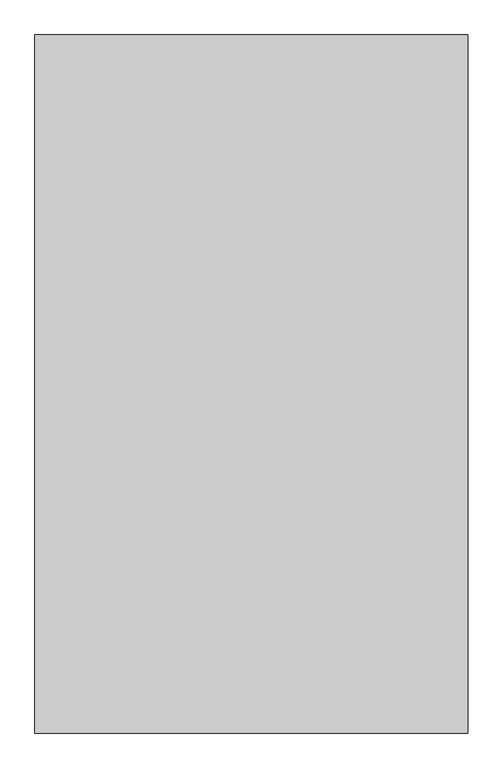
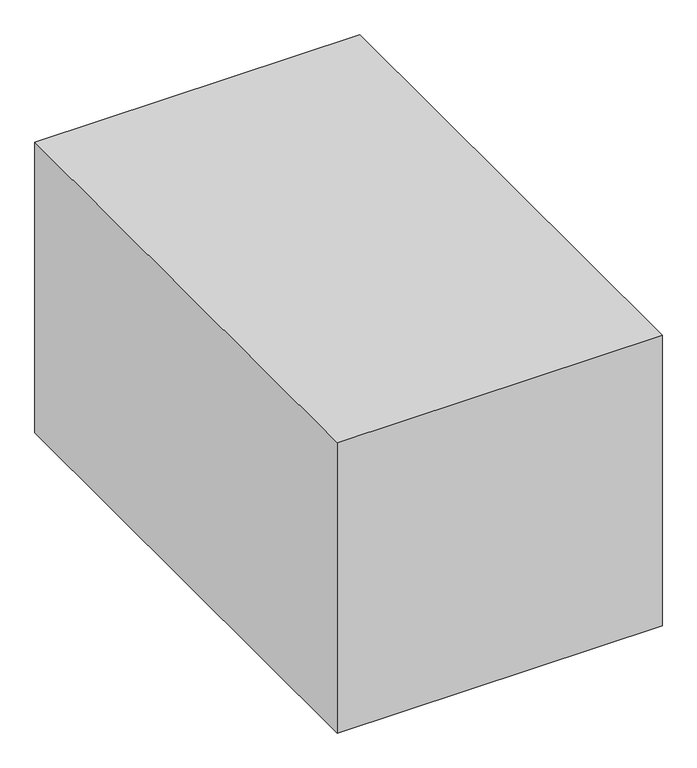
"""IFC4 building model written with IfcOpenShell, lengths in millimetres: proxy geometry, サービススペース(衛生) : サービススペース(衛生)."""

import ifcopenshell
import ifcopenshell.guid

model = None  # the IFC model being written
_history = None  # IfcOwnerHistory: only IFC2X3 demands one
_inside = {}  # id of a spatial element -> (the spatial element, [elements in it])
_under = {}  # id of a project, library or spatial element -> (it, [spatial elements below it])
_declared = {}  # id of a project -> (the project, [libraries it declares])
_typed = {}  # id of a type object -> (the type object, [elements of that type])
_made_of = {}  # id of a material, layer set ... -> (it, [elements and type objects made of it])


def new_model(schema):
    """Start an empty IFC model of exactly this schema.

    Asked for "IFC4X3", IfcOpenShell would pick the latest addendum, in which some entities
    have other attributes; the version numbers below select the first issue.
    IFC2X3 requires an IfcOwnerHistory on every rooted entity: one is made here for all.
    """
    global model, _history
    if schema == "IFC4X3":
        model = ifcopenshell.file(schema_version=(4, 3, 0, 0))
    else:
        model = ifcopenshell.file(schema=schema)
    _inside.clear()
    _under.clear()
    _declared.clear()
    _typed.clear()
    _made_of.clear()
    _history = None
    if model.schema == "IFC2X3":
        org = make("IfcOrganization", Name="unknown")
        user = make(
            "IfcPersonAndOrganization",
            ThePerson=make("IfcPerson", FamilyName="unknown"),
            TheOrganization=org,
        )
        app = make(
            "IfcApplication",
            ApplicationDeveloper=org,
            Version="unknown",
            ApplicationFullName="unknown",
            ApplicationIdentifier="unknown",
        )
        _history = make(
            "IfcOwnerHistory",
            OwningUser=user,
            OwningApplication=app,
            ChangeAction="ADDED",
            CreationDate=0,
        )
    return model


def make(cls, **values):
    """One entity of the class cls with the attributes given. An attribute that is None is left unset."""
    return model.create_entity(
        cls, **{name: value for name, value in values.items() if value is not None}
    )


def rooted(cls, **values):
    """An entity with a GlobalId (a new one), such as an element, a storey or a relation."""
    return make(cls, GlobalId=ifcopenshell.guid.new(), OwnerHistory=_history, **values)


def si_unit(unit_type, name, prefix=None):
    """IfcSIUnit, for example si_unit("LENGTHUNIT", "METRE", prefix="MILLI")."""
    return make("IfcSIUnit", UnitType=unit_type, Prefix=prefix, Name=name)


def assignment(units):
    """IfcUnitAssignment: the units of a project."""
    return None if units is None else make("IfcUnitAssignment", Units=units)


def point(xyz):
    """IfcCartesianPoint."""
    return None if xyz is None else make("IfcCartesianPoint", Coordinates=xyz)


def direction(xyz):
    """IfcDirection."""
    return None if xyz is None else make("IfcDirection", DirectionRatios=xyz)


def frame(location, z_axis=None, x_axis=None):
    """IfcAxis2Placement3D, a coordinate frame: its origin and axes. An axis left out is left unset."""
    return make(
        "IfcAxis2Placement3D",
        Location=point(location),
        Axis=direction(z_axis),
        RefDirection=direction(x_axis),
    )


def origin():
    """The frame at (0, 0, 0) with its axes left unset."""
    return frame((0.0, 0.0, 0.0))


def place(relative_to, where):
    """IfcLocalPlacement: puts the frame where relative to a parent placement (None: the world)."""
    return make(
        "IfcLocalPlacement", PlacementRelTo=relative_to, RelativePlacement=where
    )


def context(
    kind, dimensions, precision=None, world=None, true_north=None, identifier=None
):
    """IfcGeometricRepresentationContext, for example the 3D "Model" context."""
    return make(
        "IfcGeometricRepresentationContext",
        ContextIdentifier=identifier,
        ContextType=kind,
        CoordinateSpaceDimension=dimensions,
        Precision=precision,
        WorldCoordinateSystem=world,
        TrueNorth=true_north,
    )


def project(units=None, contexts=None):
    """IfcProject with its units and contexts."""
    return rooted(
        "IfcProject",
        Name="project",
        RepresentationContexts=contexts,
        UnitsInContext=assignment(units),
    )


def spatial(cls, under=None, at=None, **own):
    """A site, building, storey or space (cls), placed at a placement, below another one or the project."""
    s = rooted(cls, ObjectPlacement=at, **own)
    if under is not None:
        _under.setdefault(under.id(), (under, []))[1].append(s)
    return s


def polyline(points):
    """IfcPolyline through the points."""
    return make("IfcPolyline", Points=[point(p) for p in points])


def outline(outer, holes=None, kind="AREA"):
    """IfcArbitraryClosedProfileDef: a profile drawn as a closed curve; with holes, ...WithVoids."""
    if holes is None:
        return make("IfcArbitraryClosedProfileDef", ProfileType=kind, OuterCurve=outer)
    return make(
        "IfcArbitraryProfileDefWithVoids",
        ProfileType=kind,
        OuterCurve=outer,
        InnerCurves=holes,
    )


def extrude(swept, where, along, depth):
    """IfcExtrudedAreaSolid: the profile swept, set in the frame where, extruded along a direction by depth."""
    return make(
        "IfcExtrudedAreaSolid",
        SweptArea=swept,
        Position=where,
        ExtrudedDirection=direction(along),
        Depth=depth,
    )


def shape(context_of_items, identifier, shape_type, items):
    """IfcShapeRepresentation: the items that make up one representation, for example the "Body"."""
    return make(
        "IfcShapeRepresentation",
        ContextOfItems=context_of_items,
        RepresentationIdentifier=identifier,
        RepresentationType=shape_type,
        Items=items,
    )


def source(mapping_origin, context_of_items, identifier, shape_type, items):
    """IfcRepresentationMap: a shape defined once, which mapped items show again and again."""
    return make(
        "IfcRepresentationMap",
        MappingOrigin=mapping_origin,
        MappedRepresentation=shape(context_of_items, identifier, shape_type, items),
    )


def transform(
    local_origin,
    x_axis=None,
    y_axis=None,
    z_axis=None,
    scale=None,
    scale2=None,
    scale3=None,
    uniform=True,
):
    """IfcCartesianTransformationOperator3D, or its non-uniform kind. x_axis, y_axis, z_axis: its Axis1, 2, 3."""
    if uniform:
        return make(
            "IfcCartesianTransformationOperator3D",
            Axis1=direction(x_axis),
            Axis2=direction(y_axis),
            LocalOrigin=point(local_origin),
            Scale=scale,
            Axis3=direction(z_axis),
        )
    return make(
        "IfcCartesianTransformationOperator3DnonUniform",
        Axis1=direction(x_axis),
        Axis2=direction(y_axis),
        LocalOrigin=point(local_origin),
        Scale=scale,
        Axis3=direction(z_axis),
        Scale2=scale2,
        Scale3=scale3,
    )


def mapped(mapping_source, mapping_target):
    """IfcMappedItem: shows the shape of a source again, moved by a transform."""
    return make(
        "IfcMappedItem", MappingSource=mapping_source, MappingTarget=mapping_target
    )


def made_of(thing, what):
    """Note that an element or type object is made of a material, layer set ...; save() writes the relation."""
    if what is not None:
        _made_of.setdefault(what.id(), (what, []))[1].append(thing)
    return thing


def element(
    cls,
    number,
    at=None,
    inside=None,
    cuts=None,
    type_object=None,
    material=None,
    context=None,
    identifier="Body",
    shape_type=None,
    held_by="IfcProductDefinitionShape",
    body=None,
    shapes=None,
    **own,
):
    """One element of the class cls, such as IfcWall. Its Tag is "e" and its number.

    at: its placement. inside: the storey or other place that contains it. cuts: it is an
    opening in that element (IfcRelVoidsElement). A single representation is given by context,
    identifier, shape_type and body (its items); several are given by shapes. held_by: the class
    of the entity that holds the representations. save() writes the other relations.
    """
    e = rooted(cls, Tag="e%d" % number, ObjectPlacement=at, **own)
    if body is not None:
        shapes = [shape(context, identifier, shape_type, body)]
    if shapes is not None:
        e.Representation = make(held_by, Representations=shapes)
    if inside is not None:
        _inside.setdefault(inside.id(), (inside, []))[1].append(e)
    if cuts is not None:
        rooted(
            "IfcRelVoidsElement", RelatingBuildingElement=cuts, RelatedOpeningElement=e
        )
    if type_object is not None:
        _typed.setdefault(type_object.id(), (type_object, []))[1].append(e)
    return made_of(e, material)


def aggregate(whole, parts):
    """IfcRelAggregates: a whole, such as a stair, and the parts it consists of."""
    return rooted("IfcRelAggregates", RelatingObject=whole, RelatedObjects=parts)


def save(model, path):
    """Write the relations noted so far, then the file.

    IfcRelAggregates (storeys below a building ...), IfcRelContainedInSpatialStructure (elements
    in a storey), IfcRelDefinesByType, IfcRelAssociatesMaterial and IfcRelDeclares: one each for
    every whole, place, type object, material and project.
    """
    for whole, parts in _under.values():
        aggregate(whole, parts)
    for where, things in _inside.values():
        rooted(
            "IfcRelContainedInSpatialStructure",
            RelatedElements=things,
            RelatingStructure=where,
        )
    for kind, things in _typed.values():
        rooted("IfcRelDefinesByType", RelatedObjects=things, RelatingType=kind)
    for what, things in _made_of.values():
        rooted("IfcRelAssociatesMaterial", RelatedObjects=things, RelatingMaterial=what)
    for by, libraries in _declared.values():
        rooted("IfcRelDeclares", RelatingContext=by, RelatedDefinitions=libraries)
    model.write(path)


def specialty_equipment_6cca576a(model_context):
    return source(origin(), model_context, "Body", "SweptSolid", [
        extrude(outline(polyline([(317.5, 512.0), (317.5, -512.0), (-317.5, -512.0), (-317.5, 512.0), (317.5, 512.0)])), frame((0.0, 0.0, -300.0), z_axis=(0.0, 0.0, 1.0), x_axis=(1.0, 0.0, 0.0)), (0.0, 0.0, 1.0), 600.0),
    ])


if __name__ == "__main__":
    model = new_model("IFC4")
    model_context = context("Model", 3, world=origin())
    ifc_project = project(units=[si_unit("LENGTHUNIT", "METRE", prefix="MILLI")], contexts=[model_context])
    site = spatial("IfcSite", under=ifc_project)
    building = spatial("IfcBuilding", under=site)
    placement = place(None, origin())
    specialty_equipment_shape = specialty_equipment_6cca576a(model_context)
    element("IfcBuildingElementProxy", 1, Name="サービススペース(衛生) : サービススペース(衛生)", ObjectType="サービススペース(衛生) : サービススペース(衛生)", at=placement, inside=building, context=model_context, shape_type="MappedRepresentation", body=[
        mapped(specialty_equipment_shape, transform((0.0, 0.0, 0.0), x_axis=(1.0, 0.0, 0.0), y_axis=(0.0, 1.0, 0.0), z_axis=(0.0, 0.0, 1.0))),
    ])
    save(model, "model.ifc")
